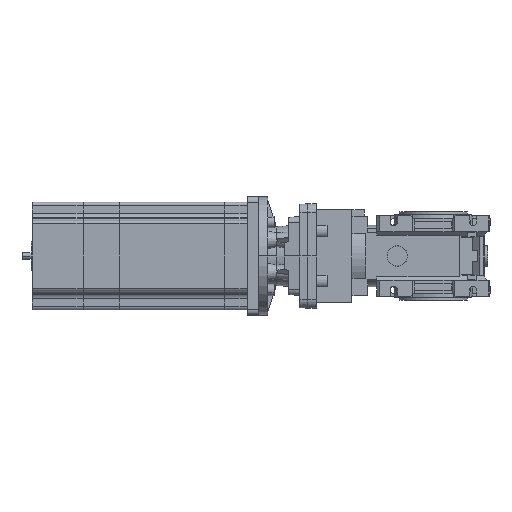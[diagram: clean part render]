
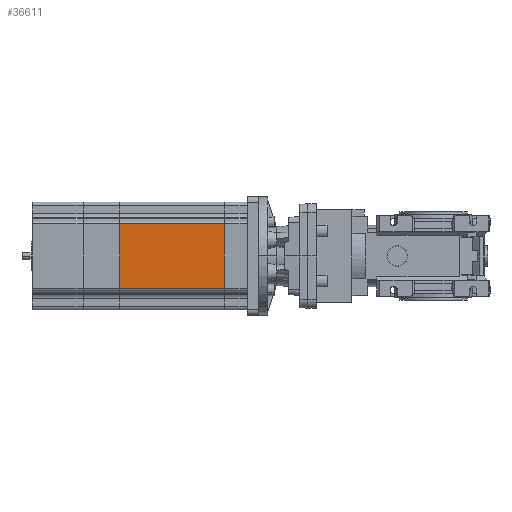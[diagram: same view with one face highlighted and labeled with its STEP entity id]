
A CAD part, front view. The second image highlights one B-rep face of the part: STEP entity #36611.
In plain terms, the highlighted planar face has unit normal (0, -1, 0) as drawn and (0, 0, -1) by its records, which use the part's own axes.
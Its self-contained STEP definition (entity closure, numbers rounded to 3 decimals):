
#800 = LINE ( 'NONE', #47955, #47187 ) ;
#2635 = ORIENTED_EDGE ( 'NONE', *, *, #37305, .T. ) ;
#3468 = DIRECTION ( 'NONE',  ( -1., 0., 0. ) ) ;
#6279 = LINE ( 'NONE', #13795, #34423 ) ;
#6759 = FACE_OUTER_BOUND ( 'NONE', #10506, .T. ) ;
#10410 = DIRECTION ( 'NONE',  ( 0., -1., 0. ) ) ;
#10506 = EDGE_LOOP ( 'NONE', ( #45862, #22389, #26904, #2635 ) ) ;
#10606 = CARTESIAN_POINT ( 'NONE',  ( 28.48, -93., -47.5 ) ) ;
#12925 = EDGE_CURVE ( 'NONE', #45235, #26176, #6279, .T. ) ;
#13031 = VECTOR ( 'NONE', #10410, 1000. ) ;
#13795 = CARTESIAN_POINT ( 'NONE',  ( 31.48, -93., -47.5 ) ) ;
#15021 = DIRECTION ( 'NONE',  ( 0., 0., -1. ) ) ;
#19122 = VECTOR ( 'NONE', #38968, 1000. ) ;
#19628 = LINE ( 'NONE', #46048, #19122 ) ;
#21274 = DIRECTION ( 'NONE',  ( -1., 0., 0. ) ) ;
#22038 = PLANE ( 'NONE',  #23320 ) ;
#22389 = ORIENTED_EDGE ( 'NONE', *, *, #47683, .T. ) ;
#23320 = AXIS2_PLACEMENT_3D ( 'NONE', #45704, #15021, #3468 ) ;
#26176 = VERTEX_POINT ( 'NONE', #38713 ) ;
#26904 = ORIENTED_EDGE ( 'NONE', *, *, #33982, .F. ) ;
#28589 = DIRECTION ( 'NONE',  ( -1., 0., 0. ) ) ;
#32916 = VERTEX_POINT ( 'NONE', #42706 ) ;
#33772 = LINE ( 'NONE', #44828, #13031 ) ;
#33982 = EDGE_CURVE ( 'NONE', #42222, #32916, #800, .T. ) ;
#34423 = VECTOR ( 'NONE', #28589, 1000. ) ;
#36611 = ADVANCED_FACE ( 'NONE', ( #6759 ), #22038, .T. ) ;
#37305 = EDGE_CURVE ( 'NONE', #42222, #45235, #33772, .T. ) ;
#38713 = CARTESIAN_POINT ( 'NONE',  ( -28.48, -93., -47.5 ) ) ;
#38968 = DIRECTION ( 'NONE',  ( 0., 1., 0. ) ) ;
#41534 = CARTESIAN_POINT ( 'NONE',  ( 28.48, 0., -47.5 ) ) ;
#42222 = VERTEX_POINT ( 'NONE', #41534 ) ;
#42706 = CARTESIAN_POINT ( 'NONE',  ( -28.48, 0., -47.5 ) ) ;
#44828 = CARTESIAN_POINT ( 'NONE',  ( 28.48, -93., -47.5 ) ) ;
#45235 = VERTEX_POINT ( 'NONE', #10606 ) ;
#45704 = CARTESIAN_POINT ( 'NONE',  ( 31.48, -93., -47.5 ) ) ;
#45862 = ORIENTED_EDGE ( 'NONE', *, *, #12925, .T. ) ;
#46048 = CARTESIAN_POINT ( 'NONE',  ( -28.48, -93., -47.5 ) ) ;
#47187 = VECTOR ( 'NONE', #21274, 1000. ) ;
#47683 = EDGE_CURVE ( 'NONE', #26176, #32916, #19628, .T. ) ;
#47955 = CARTESIAN_POINT ( 'NONE',  ( 31.48, 0., -47.5 ) ) ;
